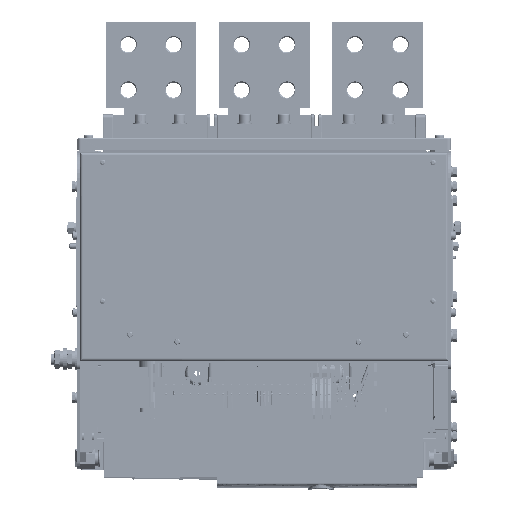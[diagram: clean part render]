
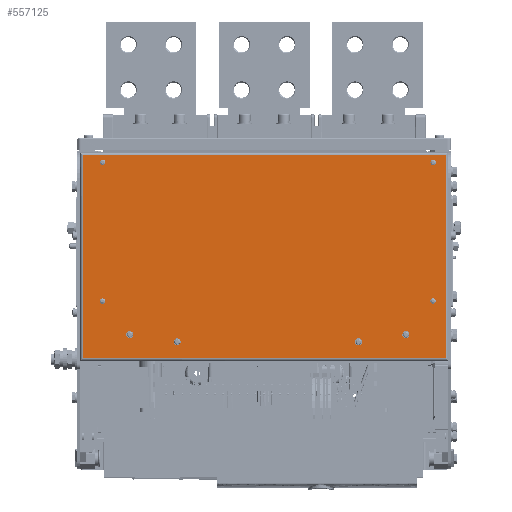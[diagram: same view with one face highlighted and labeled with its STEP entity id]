
A CAD part, top view. The second image highlights one B-rep face of the part: STEP entity #557125.
In plain terms, the highlighted planar face has unit normal (0, 0, 1) as drawn and (-1, 0, 0) by its records, which use the part's own axes.
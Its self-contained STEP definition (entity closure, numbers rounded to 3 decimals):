
#552791=CARTESIAN_POINT('',(-33.742,-318.314,-299.));
#552792=DIRECTION('',(-1.,0.,0.));
#552793=DIRECTION('',(0.,0.,1.));
#552794=AXIS2_PLACEMENT_3D('',#552791,#552792,#552793);
#552796=CARTESIAN_POINT('',(-33.742,-318.314,-299.));
#552797=DIRECTION('',(-1.,0.,0.));
#552798=DIRECTION('',(0.,0.,-1.));
#552799=AXIS2_PLACEMENT_3D('',#552796,#552797,#552798);
#552801=CARTESIAN_POINT('',(-33.742,-318.314,-146.));
#552802=DIRECTION('',(-1.,0.,0.));
#552803=DIRECTION('',(0.,0.,1.));
#552804=AXIS2_PLACEMENT_3D('',#552801,#552802,#552803);
#552806=CARTESIAN_POINT('',(-33.742,-318.314,-146.));
#552807=DIRECTION('',(-1.,0.,0.));
#552808=DIRECTION('',(0.,0.,-1.));
#552809=AXIS2_PLACEMENT_3D('',#552806,#552807,#552808);
#552811=CARTESIAN_POINT('',(-33.742,16.186,-109.));
#552812=DIRECTION('',(-1.,0.,0.));
#552813=DIRECTION('',(0.,0.,-1.));
#552814=AXIS2_PLACEMENT_3D('',#552811,#552812,#552813);
#552816=CARTESIAN_POINT('',(-33.742,16.186,-109.));
#552817=DIRECTION('',(-1.,0.,0.));
#552818=DIRECTION('',(0.,0.,1.));
#552819=AXIS2_PLACEMENT_3D('',#552816,#552817,#552818);
#552821=CARTESIAN_POINT('',(-33.742,46.186,-299.));
#552822=DIRECTION('',(-1.,0.,0.));
#552823=DIRECTION('',(0.,0.,-1.));
#552824=AXIS2_PLACEMENT_3D('',#552821,#552822,#552823);
#552826=CARTESIAN_POINT('',(-33.742,46.186,-299.));
#552827=DIRECTION('',(-1.,0.,0.));
#552828=DIRECTION('',(0.,0.,1.));
#552829=AXIS2_PLACEMENT_3D('',#552826,#552827,#552828);
#552831=CARTESIAN_POINT('',(-33.742,46.186,-146.));
#552832=DIRECTION('',(-1.,0.,0.));
#552833=DIRECTION('',(0.,0.,-1.));
#552834=AXIS2_PLACEMENT_3D('',#552831,#552832,#552833);
#552836=CARTESIAN_POINT('',(-33.742,46.186,-146.));
#552837=DIRECTION('',(-1.,0.,0.));
#552838=DIRECTION('',(0.,0.,1.));
#552839=AXIS2_PLACEMENT_3D('',#552836,#552837,#552838);
#552841=CARTESIAN_POINT('',(-33.742,-36.064,-101.1));
#552842=DIRECTION('',(-1.,0.,0.));
#552843=DIRECTION('',(0.,0.,-1.));
#552844=AXIS2_PLACEMENT_3D('',#552841,#552842,#552843);
#552846=CARTESIAN_POINT('',(-33.742,-36.064,-101.1));
#552847=DIRECTION('',(-1.,0.,0.));
#552848=DIRECTION('',(0.,0.,1.));
#552849=AXIS2_PLACEMENT_3D('',#552846,#552847,#552848);
#552851=CARTESIAN_POINT('',(-33.742,-236.064,-101.1));
#552852=DIRECTION('',(-1.,0.,0.));
#552853=DIRECTION('',(0.,0.,-1.));
#552854=AXIS2_PLACEMENT_3D('',#552851,#552852,#552853);
#552856=CARTESIAN_POINT('',(-33.742,-236.064,-101.1));
#552857=DIRECTION('',(-1.,0.,0.));
#552858=DIRECTION('',(0.,0.,1.));
#552859=AXIS2_PLACEMENT_3D('',#552856,#552857,#552858);
#552861=CARTESIAN_POINT('',(-33.742,-288.314,-109.));
#552862=DIRECTION('',(-1.,0.,0.));
#552863=DIRECTION('',(0.,0.,-1.));
#552864=AXIS2_PLACEMENT_3D('',#552861,#552862,#552863);
#552866=CARTESIAN_POINT('',(-33.742,-288.314,-109.));
#552867=DIRECTION('',(-1.,0.,0.));
#552868=DIRECTION('',(0.,0.,1.));
#552869=AXIS2_PLACEMENT_3D('',#552866,#552867,#552868);
#552894=DIRECTION('',(0.,0.,1.));
#552895=VECTOR('',#552894,224.);
#552896=CARTESIAN_POINT('',(-33.742,-340.064,-307.));
#552897=LINE('',#552896,#552895);
#552898=DIRECTION('',(0.,1.,0.));
#552899=VECTOR('',#552898,400.);
#552900=CARTESIAN_POINT('',(-33.742,-340.064,-83.));
#552901=LINE('',#552900,#552899);
#552915=DIRECTION('',(0.,0.,-1.));
#552916=VECTOR('',#552915,224.);
#552917=CARTESIAN_POINT('',(-33.742,59.936,-83.));
#552918=LINE('',#552917,#552916);
#552937=DIRECTION('',(0.,-1.,0.));
#552938=VECTOR('',#552937,400.);
#552939=CARTESIAN_POINT('',(-33.742,59.936,-307.));
#552940=LINE('',#552939,#552938);
#556197=CARTESIAN_POINT('',(-33.742,-288.314,-112.9));
#556198=VERTEX_POINT('',#556197);
#556199=CARTESIAN_POINT('',(-33.742,-288.314,-105.1));
#556200=VERTEX_POINT('',#556199);
#556201=CARTESIAN_POINT('',(-33.742,-340.064,-307.));
#556202=CARTESIAN_POINT('',(-33.742,-340.064,-83.));
#556203=VERTEX_POINT('',#556201);
#556204=VERTEX_POINT('',#556202);
#556205=CARTESIAN_POINT('',(-33.742,59.936,-307.));
#556206=VERTEX_POINT('',#556205);
#556207=CARTESIAN_POINT('',(-33.742,59.936,-83.));
#556208=VERTEX_POINT('',#556207);
#556209=CARTESIAN_POINT('',(-33.742,-318.314,-296.));
#556210=CARTESIAN_POINT('',(-33.742,-318.314,-302.));
#556211=VERTEX_POINT('',#556209);
#556212=VERTEX_POINT('',#556210);
#556213=CARTESIAN_POINT('',(-33.742,-318.314,-143.));
#556214=CARTESIAN_POINT('',(-33.742,-318.314,-149.));
#556215=VERTEX_POINT('',#556213);
#556216=VERTEX_POINT('',#556214);
#556217=CARTESIAN_POINT('',(-33.742,16.186,-112.9));
#556218=CARTESIAN_POINT('',(-33.742,16.186,-105.1));
#556219=VERTEX_POINT('',#556217);
#556220=VERTEX_POINT('',#556218);
#556221=CARTESIAN_POINT('',(-33.742,46.186,-302.));
#556222=CARTESIAN_POINT('',(-33.742,46.186,-296.));
#556223=VERTEX_POINT('',#556221);
#556224=VERTEX_POINT('',#556222);
#556225=CARTESIAN_POINT('',(-33.742,46.186,-149.));
#556226=CARTESIAN_POINT('',(-33.742,46.186,-143.));
#556227=VERTEX_POINT('',#556225);
#556228=VERTEX_POINT('',#556226);
#556229=CARTESIAN_POINT('',(-33.742,-36.064,-105.));
#556230=CARTESIAN_POINT('',(-33.742,-36.064,-97.2));
#556231=VERTEX_POINT('',#556229);
#556232=VERTEX_POINT('',#556230);
#556233=CARTESIAN_POINT('',(-33.742,-236.064,-105.));
#556234=CARTESIAN_POINT('',(-33.742,-236.064,-97.2));
#556235=VERTEX_POINT('',#556233);
#556236=VERTEX_POINT('',#556234);
#557064=CARTESIAN_POINT('',(-33.742,-282.064,-200.));
#557065=DIRECTION('',(1.,0.,0.));
#557066=DIRECTION('',(0.,0.,-1.));
#557067=AXIS2_PLACEMENT_3D('',#557064,#557065,#557066);
#557068=PLANE('',#557067);
#557070=ORIENTED_EDGE('',*,*,#557069,.F.);
#557072=ORIENTED_EDGE('',*,*,#557071,.F.);
#557074=ORIENTED_EDGE('',*,*,#557073,.F.);
#557076=ORIENTED_EDGE('',*,*,#557075,.F.);
#557077=EDGE_LOOP('',(#557070,#557072,#557074,#557076));
#557078=FACE_OUTER_BOUND('',#557077,.F.);
#557080=ORIENTED_EDGE('',*,*,#557079,.T.);
#557082=ORIENTED_EDGE('',*,*,#557081,.T.);
#557083=EDGE_LOOP('',(#557080,#557082));
#557084=FACE_BOUND('',#557083,.F.);
#557086=ORIENTED_EDGE('',*,*,#557085,.T.);
#557088=ORIENTED_EDGE('',*,*,#557087,.T.);
#557089=EDGE_LOOP('',(#557086,#557088));
#557090=FACE_BOUND('',#557089,.F.);
#557092=ORIENTED_EDGE('',*,*,#557091,.T.);
#557094=ORIENTED_EDGE('',*,*,#557093,.T.);
#557095=EDGE_LOOP('',(#557092,#557094));
#557096=FACE_BOUND('',#557095,.F.);
#557098=ORIENTED_EDGE('',*,*,#557097,.T.);
#557100=ORIENTED_EDGE('',*,*,#557099,.T.);
#557101=EDGE_LOOP('',(#557098,#557100));
#557102=FACE_BOUND('',#557101,.F.);
#557104=ORIENTED_EDGE('',*,*,#557103,.T.);
#557106=ORIENTED_EDGE('',*,*,#557105,.T.);
#557107=EDGE_LOOP('',(#557104,#557106));
#557108=FACE_BOUND('',#557107,.F.);
#557109=ORIENTED_EDGE('',*,*,#557027,.T.);
#557110=ORIENTED_EDGE('',*,*,#557058,.T.);
#557111=EDGE_LOOP('',(#557109,#557110));
#557112=FACE_BOUND('',#557111,.F.);
#557114=ORIENTED_EDGE('',*,*,#557113,.T.);
#557116=ORIENTED_EDGE('',*,*,#557115,.T.);
#557117=EDGE_LOOP('',(#557114,#557116));
#557118=FACE_BOUND('',#557117,.F.);
#557120=ORIENTED_EDGE('',*,*,#557119,.T.);
#557122=ORIENTED_EDGE('',*,*,#557121,.T.);
#557123=EDGE_LOOP('',(#557120,#557122));
#557124=FACE_BOUND('',#557123,.F.);
#557125=ADVANCED_FACE('',(#557078,#557084,#557090,#557096,#557102,#557108,
#557112,#557118,#557124),#557068,.F.);
#552795=CIRCLE('',#552794,3.);
#552800=CIRCLE('',#552799,3.);
#552805=CIRCLE('',#552804,3.);
#552810=CIRCLE('',#552809,3.);
#552815=CIRCLE('',#552814,3.9);
#552820=CIRCLE('',#552819,3.9);
#552825=CIRCLE('',#552824,3.);
#552830=CIRCLE('',#552829,3.);
#552835=CIRCLE('',#552834,3.);
#552840=CIRCLE('',#552839,3.);
#552845=CIRCLE('',#552844,3.9);
#552850=CIRCLE('',#552849,3.9);
#552855=CIRCLE('',#552854,3.9);
#552860=CIRCLE('',#552859,3.9);
#552865=CIRCLE('',#552864,3.9);
#552870=CIRCLE('',#552869,3.9);
#557027=EDGE_CURVE('',#556231,#556232,#552845,.T.);
#557058=EDGE_CURVE('',#556232,#556231,#552850,.T.);
#557069=EDGE_CURVE('',#556203,#556204,#552897,.T.);
#557071=EDGE_CURVE('',#556206,#556203,#552940,.T.);
#557073=EDGE_CURVE('',#556208,#556206,#552918,.T.);
#557075=EDGE_CURVE('',#556204,#556208,#552901,.T.);
#557079=EDGE_CURVE('',#556211,#556212,#552795,.T.);
#557081=EDGE_CURVE('',#556212,#556211,#552800,.T.);
#557085=EDGE_CURVE('',#556215,#556216,#552805,.T.);
#557087=EDGE_CURVE('',#556216,#556215,#552810,.T.);
#557091=EDGE_CURVE('',#556219,#556220,#552815,.T.);
#557093=EDGE_CURVE('',#556220,#556219,#552820,.T.);
#557097=EDGE_CURVE('',#556223,#556224,#552825,.T.);
#557099=EDGE_CURVE('',#556224,#556223,#552830,.T.);
#557103=EDGE_CURVE('',#556227,#556228,#552835,.T.);
#557105=EDGE_CURVE('',#556228,#556227,#552840,.T.);
#557113=EDGE_CURVE('',#556235,#556236,#552855,.T.);
#557115=EDGE_CURVE('',#556236,#556235,#552860,.T.);
#557119=EDGE_CURVE('',#556198,#556200,#552865,.T.);
#557121=EDGE_CURVE('',#556200,#556198,#552870,.T.);
